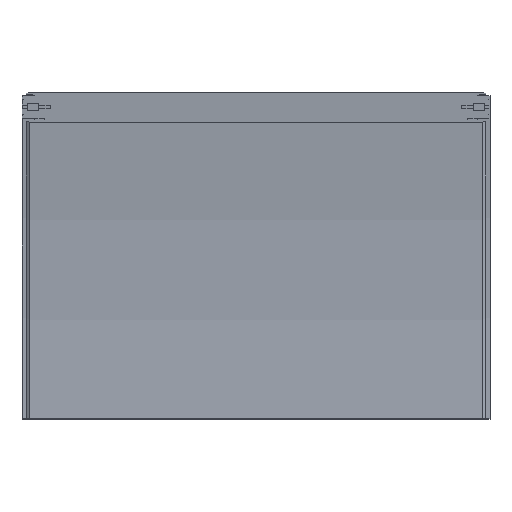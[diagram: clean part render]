
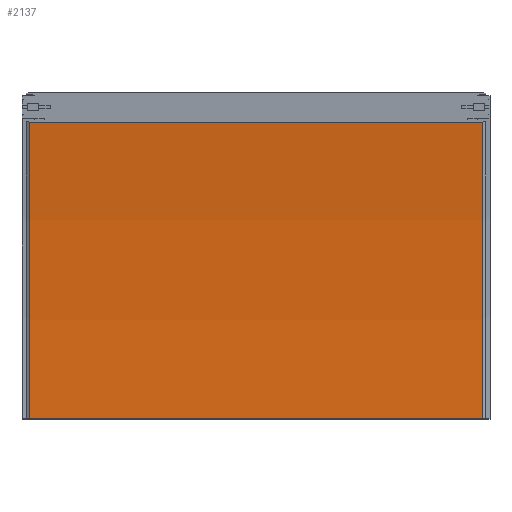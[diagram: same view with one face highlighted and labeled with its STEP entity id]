
A CAD part, top view. The second image highlights one B-rep face of the part: STEP entity #2137.
In plain terms, the highlighted cylindrical face has radius 818 mm (diameter 1636 mm), a partial arc.
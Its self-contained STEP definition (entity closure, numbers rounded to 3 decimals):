
#62=CYLINDRICAL_SURFACE('',#2337,818.);
#225=CIRCLE('',#2336,818.);
#226=CIRCLE('',#2338,818.);
#336=FACE_OUTER_BOUND('',#454,.T.);
#454=EDGE_LOOP('',(#1769,#1770,#1771,#1772));
#615=LINE('',#8201,#793);
#616=LINE('',#8203,#794);
#793=VECTOR('',#2838,10.);
#794=VECTOR('',#2839,10.);
#1005=VERTEX_POINT('',#8194);
#1006=VERTEX_POINT('',#8196);
#1007=VERTEX_POINT('',#8200);
#1008=VERTEX_POINT('',#8202);
#1304=EDGE_CURVE('',#1005,#1006,#225,.T.);
#1305=EDGE_CURVE('',#1007,#1005,#615,.T.);
#1306=EDGE_CURVE('',#1008,#1006,#616,.T.);
#1307=EDGE_CURVE('',#1007,#1008,#226,.T.);
#1769=ORIENTED_EDGE('',*,*,#1305,.T.);
#1770=ORIENTED_EDGE('',*,*,#1304,.T.);
#1771=ORIENTED_EDGE('',*,*,#1306,.F.);
#1772=ORIENTED_EDGE('',*,*,#1307,.F.);
#2137=ADVANCED_FACE('',(#336),#62,.F.);
#2336=AXIS2_PLACEMENT_3D('',#8198,#2834,#2835);
#2337=AXIS2_PLACEMENT_3D('',#8199,#2836,#2837);
#2338=AXIS2_PLACEMENT_3D('',#8204,#2840,#2841);
#2834=DIRECTION('center_axis',(1.,0.,0.));
#2835=DIRECTION('ref_axis',(0.,0.,-1.));
#2836=DIRECTION('center_axis',(1.,0.,0.));
#2837=DIRECTION('ref_axis',(0.,0.,-1.));
#2838=DIRECTION('',(1.,0.,0.));
#2839=DIRECTION('',(1.,0.,0.));
#2840=DIRECTION('center_axis',(1.,0.,0.));
#2841=DIRECTION('ref_axis',(0.,0.,-1.));
#8194=CARTESIAN_POINT('',(108.5,0.,42.));
#8196=CARTESIAN_POINT('',(108.5,142.044,54.427));
#8198=CARTESIAN_POINT('Origin',(108.5,0.,860.));
#8199=CARTESIAN_POINT('Origin',(-54.25,0.,860.));
#8200=CARTESIAN_POINT('',(-108.5,0.,42.));
#8201=CARTESIAN_POINT('',(-108.5,0.,42.));
#8202=CARTESIAN_POINT('',(-108.5,142.044,54.427));
#8203=CARTESIAN_POINT('',(-108.5,142.044,54.427));
#8204=CARTESIAN_POINT('Origin',(-108.5,0.,860.));
